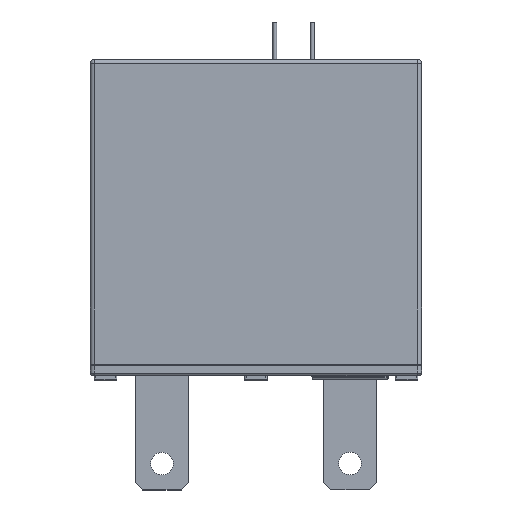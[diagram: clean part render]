
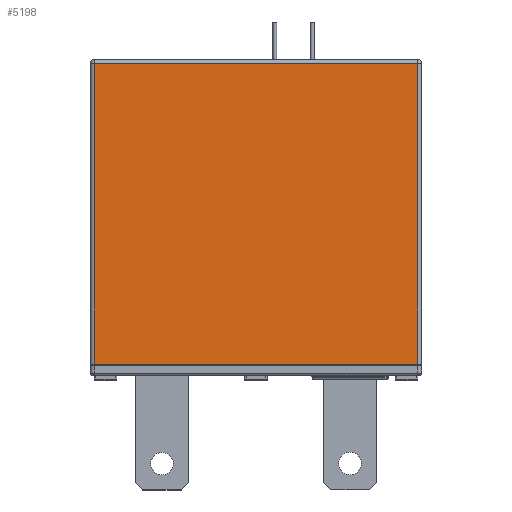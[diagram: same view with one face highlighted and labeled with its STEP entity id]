
A CAD part, top view. The second image highlights one B-rep face of the part: STEP entity #5198.
In plain terms, the highlighted planar face has unit normal (0, 0, 1).
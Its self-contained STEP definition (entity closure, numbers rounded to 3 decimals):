
#84=DIRECTION('',(1.,0.,0.));
#85=VECTOR('',#84,43.);
#86=CARTESIAN_POINT('',(-21.5,1.5,8.25));
#87=LINE('',#86,#85);
#299=DIRECTION('',(1.,0.,0.));
#300=VECTOR('',#299,43.);
#301=CARTESIAN_POINT('',(-21.5,41.5,8.25));
#302=LINE('',#301,#300);
#306=DIRECTION('',(0.,1.,0.));
#307=VECTOR('',#306,40.);
#308=CARTESIAN_POINT('',(-21.5,1.5,8.25));
#309=LINE('',#308,#307);
#337=DIRECTION('',(0.,1.,0.));
#338=VECTOR('',#337,40.);
#339=CARTESIAN_POINT('',(21.5,1.5,8.25));
#340=LINE('',#339,#338);
#4753=CARTESIAN_POINT('',(-21.5,1.5,8.25));
#4754=VERTEX_POINT('',#4753);
#4755=CARTESIAN_POINT('',(21.5,1.5,8.25));
#4756=VERTEX_POINT('',#4755);
#4887=CARTESIAN_POINT('',(-21.5,41.5,8.25));
#4888=VERTEX_POINT('',#4887);
#4891=CARTESIAN_POINT('',(21.5,41.5,8.25));
#4892=VERTEX_POINT('',#4891);
#5185=CARTESIAN_POINT('',(-21.5,1.5,8.25));
#5186=DIRECTION('',(0.,0.,1.));
#5187=DIRECTION('',(1.,0.,0.));
#5188=AXIS2_PLACEMENT_3D('',#5185,#5186,#5187);
#5189=PLANE('',#5188);
#5191=ORIENTED_EDGE('',*,*,#5190,.T.);
#5193=ORIENTED_EDGE('',*,*,#5192,.F.);
#5194=ORIENTED_EDGE('',*,*,#4991,.F.);
#5195=ORIENTED_EDGE('',*,*,#5177,.T.);
#5196=EDGE_LOOP('',(#5191,#5193,#5194,#5195));
#5197=FACE_OUTER_BOUND('',#5196,.F.);
#5198=ADVANCED_FACE('',(#5197),#5189,.T.);
#4991=EDGE_CURVE('',#4754,#4756,#87,.T.);
#5177=EDGE_CURVE('',#4754,#4888,#309,.T.);
#5190=EDGE_CURVE('',#4888,#4892,#302,.T.);
#5192=EDGE_CURVE('',#4756,#4892,#340,.T.);
